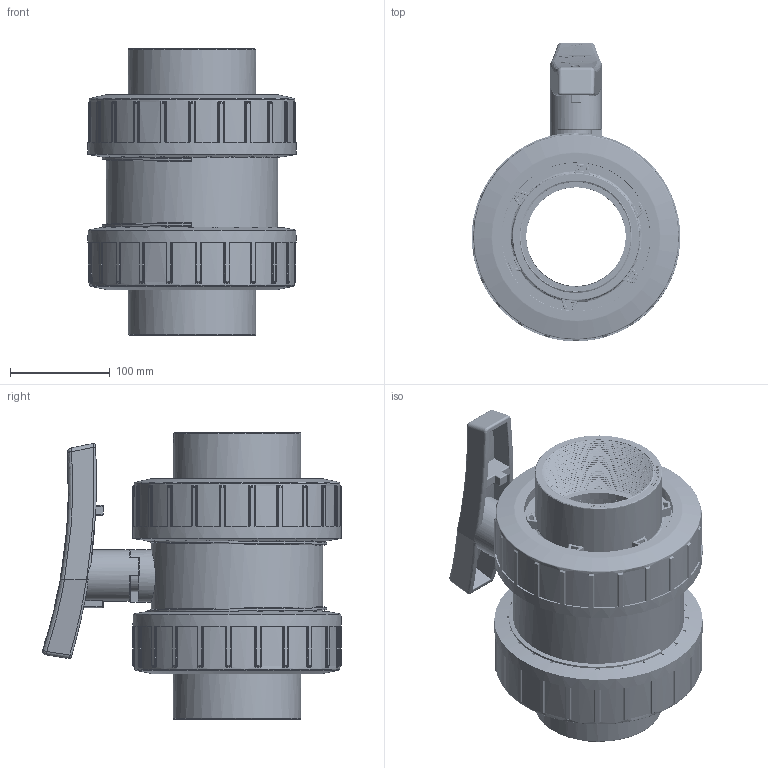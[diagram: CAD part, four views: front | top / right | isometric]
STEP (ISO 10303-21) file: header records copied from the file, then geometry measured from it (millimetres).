
FILE_DESCRIPTION(/* description */ (''),/* implementation_level */ '2;1');
FILE_NAME(/* name */ 'C:\ex desktop\VALVOLE SFERA\BV ACQUA\VALVOLE ACQUA FILETTATE\BVD41110\BVD41110_new_handle.stp',/* time_stamp */ '2019-04-02T15:20:47+02:00',/* author */ ('e.sacchi'),/* organization */ (''),/* preprocessor_version */ 'ST-DEVELOPER v16.13',/* originating_system */ 'Autodesk Inventor 2018',/* authorisation */ '');
FILE_SCHEMA (('AUTOMOTIVE_DESIGN { 1 0 10303 214 3 1 1 }'));
Length unit declared in the file: millimetre
Products named in the file (12): BVD40110; corpo_BVd_40_d_110; sfera_BVI_10_d_110; asta_BVI_10_d_110; supporto_BVD_40_d_110; LAV4437E; PTFE_BVI_10_d_110; LAV4093E; LAV6450E; collare_BVI_10_d_110; ghiera_BVI_10_d_110; maniglia_BVI_d_110
Assembly tree (17 placements, depth 2):
  BVD40110
    corpo_BVd_40_d_110
    LAV4437E  x2
    PTFE_BVI_10_d_110  x2
    sfera_BVI_10_d_110
    asta_BVI_10_d_110
    supporto_BVD_40_d_110
    LAV4093E  x2
    LAV6450E  x2
    collare_BVI_10_d_110  x2
    ghiera_BVI_10_d_110  x2
    maniglia_BVI_d_110
Bounding box: 208.97 x 299.43 x 288 mm (x, y, z)
Volume: 4244768 mm3; surface area: 1143853.8 mm2
Topology: 21 solids, 21 shells, 2403 faces, 6059 edges, 3799 vertices
Faces by surface type: plane 1032, cylinder 534, bspline 449, torus 239, sphere 94, cone 55
Full cylindrical faces by diameter (mm): 12 x1, 15.28 x1, 28 x2, 31.4 x3, 32 x1, 38.4 x1, 51.4 x1, 52.5 x1, 100 x5, 110 x3, 113 x1, 113.03 x4, 116 x4, 125 x1, 126 x1, 128 x2, 130 x1, 131 x1, 145 x1, 145.5 x1, 150 x2, 153 x1, 154 x7, 156 x1, 172 x15, 174.5 x14, 206 x2, 209 x2
Entity records: 73407 total; most frequent: CARTESIAN_POINT 39334, ORIENTED_EDGE 7238, DIRECTION 6612, EDGE_CURVE 3618, AXIS2_PLACEMENT_3D 2446, VERTEX_POINT 2319, LINE 1720, VECTOR 1720
